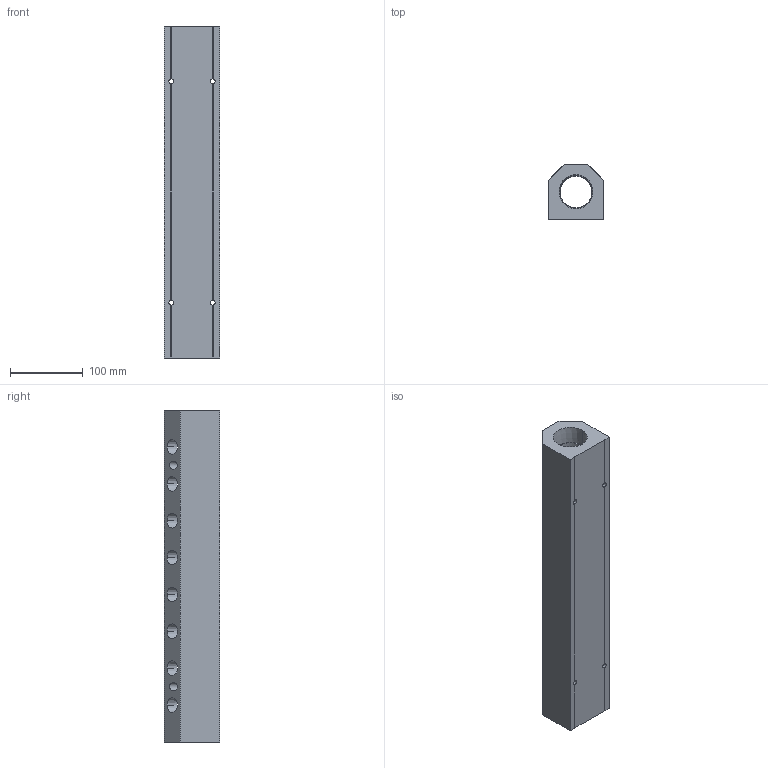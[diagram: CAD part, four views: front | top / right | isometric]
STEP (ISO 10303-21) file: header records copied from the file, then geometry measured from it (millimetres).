
FILE_DESCRIPTION (( 'STEP AP214' ), '1' );
FILE_NAME ('ALM8BD-N8N24-457B.step', '2022-02-07T09:29:29', ( '' ), ( '' ), 'SwSTEP 2.0', 'SolidWorks 2020', '' );
FILE_SCHEMA (( 'AUTOMOTIVE_DESIGN' ));
Length unit declared in the file: millimetre
Products named in the file (1): ALM8BD-N8N24-457B
Bounding box: 76.2 x 76.2 x 457 mm (x, y, z)
Volume: 1620333 mm3; surface area: 211094.5 mm2
Topology: 1 solids, 1 shells, 344 faces, 907 edges, 602 vertices
Faces by surface type: plane 214, bspline 76, cone 36, cylinder 18
Entity records: 19822 total; most frequent: CARTESIAN_POINT 8546, ORIENTED_EDGE 1814, DIRECTION 1313, EDGE_CURVE 907, LINE 639, VECTOR 639, VERTEX_POINT 602, EDGE_LOOP 423
